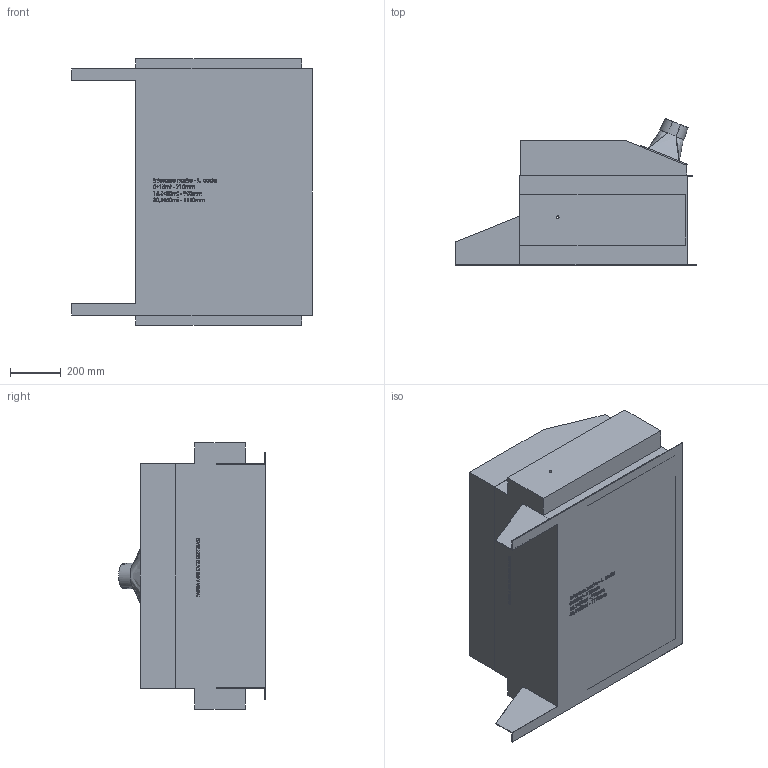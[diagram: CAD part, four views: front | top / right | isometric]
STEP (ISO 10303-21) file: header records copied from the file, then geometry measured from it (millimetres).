
FILE_DESCRIPTION (( 'STEP AP203' ), '1' );
FILE_NAME ('30760.step', '2019-03-14T14:32:19', ( 'PC' ), ( 'Hewlett-Packard Company' ), 'SwSTEP 2.0', 'SolidWorks 2016', '' );
FILE_SCHEMA (( 'CONFIG_CONTROL_DESIGN' ));
Length unit declared in the file: millimetre
Products named in the file (1): 30760
Bounding box: 950 x 579.39 x 1050 mm (x, y, z)
Volume: 299662982.4 mm3; surface area: 4790929.4 mm2
Topology: 3 solids, 3 shells, 1165 faces, 3095 edges, 2057 vertices
Faces by surface type: plane 700, bspline 443, cylinder 20, cone 2
Entity records: 64426 total; most frequent: CARTESIAN_POINT 38359, ORIENTED_EDGE 6186, DIRECTION 3689, EDGE_CURVE 3093, LINE 2163, VECTOR 2163, VERTEX_POINT 2057, EDGE_LOOP 1304
